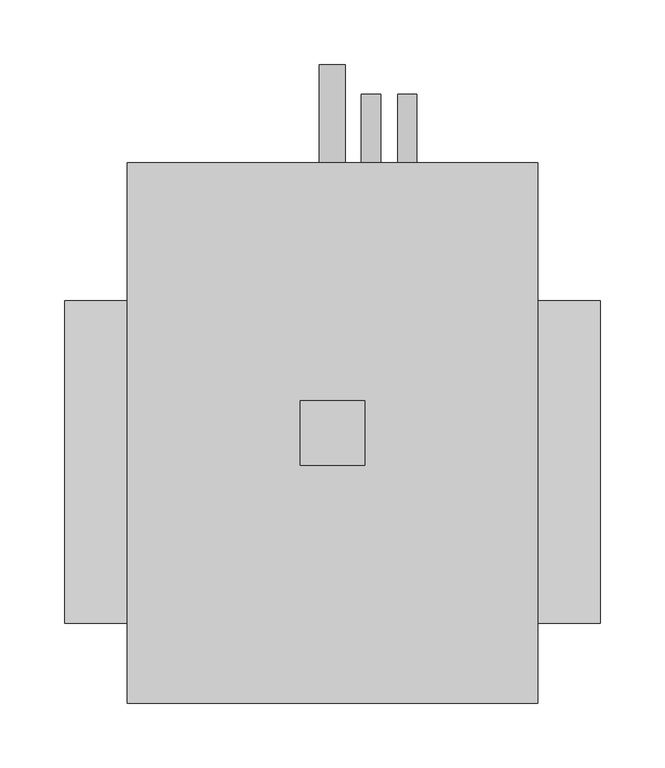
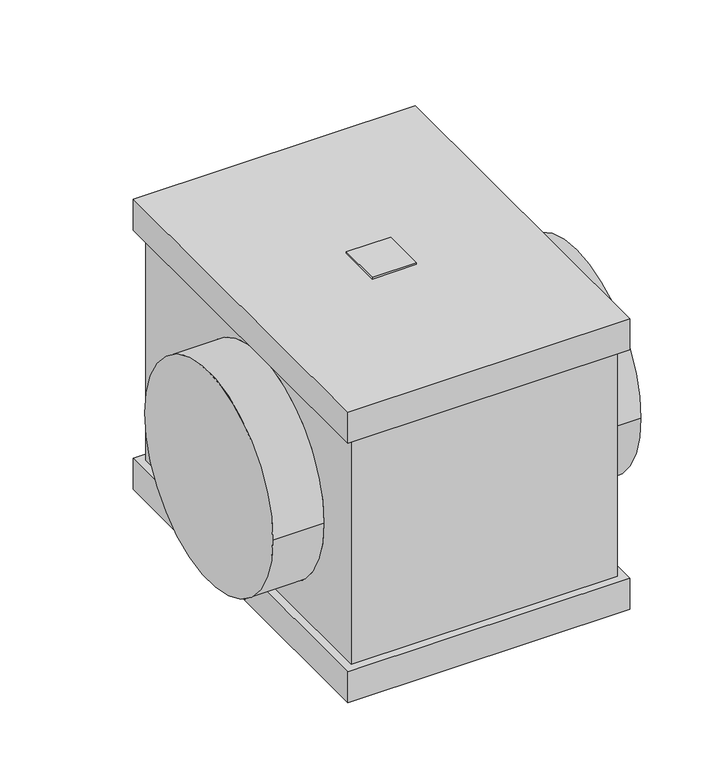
"""IFC4 building model written with IfcOpenShell, lengths in millimetres: proxy geometry, KORF_Охладитель_Водяной_Круглый_Правый_KWLO : KWLO 250/2."""

import ifcopenshell
import ifcopenshell.guid

model = None  # the IFC model being written
_history = None  # IfcOwnerHistory: only IFC2X3 demands one
_inside = {}  # id of a spatial element -> (the spatial element, [elements in it])
_under = {}  # id of a project, library or spatial element -> (it, [spatial elements below it])
_declared = {}  # id of a project -> (the project, [libraries it declares])
_typed = {}  # id of a type object -> (the type object, [elements of that type])
_made_of = {}  # id of a material, layer set ... -> (it, [elements and type objects made of it])


def new_model(schema):
    """Start an empty IFC model of exactly this schema.

    Asked for "IFC4X3", IfcOpenShell would pick the latest addendum, in which some entities
    have other attributes; the version numbers below select the first issue.
    IFC2X3 requires an IfcOwnerHistory on every rooted entity: one is made here for all.
    """
    global model, _history
    if schema == "IFC4X3":
        model = ifcopenshell.file(schema_version=(4, 3, 0, 0))
    else:
        model = ifcopenshell.file(schema=schema)
    _inside.clear()
    _under.clear()
    _declared.clear()
    _typed.clear()
    _made_of.clear()
    _history = None
    if model.schema == "IFC2X3":
        org = make("IfcOrganization", Name="unknown")
        user = make(
            "IfcPersonAndOrganization",
            ThePerson=make("IfcPerson", FamilyName="unknown"),
            TheOrganization=org,
        )
        app = make(
            "IfcApplication",
            ApplicationDeveloper=org,
            Version="unknown",
            ApplicationFullName="unknown",
            ApplicationIdentifier="unknown",
        )
        _history = make(
            "IfcOwnerHistory",
            OwningUser=user,
            OwningApplication=app,
            ChangeAction="ADDED",
            CreationDate=0,
        )
    return model


def make(cls, **values):
    """One entity of the class cls with the attributes given. An attribute that is None is left unset."""
    return model.create_entity(
        cls, **{name: value for name, value in values.items() if value is not None}
    )


def rooted(cls, **values):
    """An entity with a GlobalId (a new one), such as an element, a storey or a relation."""
    return make(cls, GlobalId=ifcopenshell.guid.new(), OwnerHistory=_history, **values)


def si_unit(unit_type, name, prefix=None):
    """IfcSIUnit, for example si_unit("LENGTHUNIT", "METRE", prefix="MILLI")."""
    return make("IfcSIUnit", UnitType=unit_type, Prefix=prefix, Name=name)


def assignment(units):
    """IfcUnitAssignment: the units of a project."""
    return None if units is None else make("IfcUnitAssignment", Units=units)


def point(xyz):
    """IfcCartesianPoint."""
    return None if xyz is None else make("IfcCartesianPoint", Coordinates=xyz)


def direction(xyz):
    """IfcDirection."""
    return None if xyz is None else make("IfcDirection", DirectionRatios=xyz)


def frame(location, z_axis=None, x_axis=None):
    """IfcAxis2Placement3D, a coordinate frame: its origin and axes. An axis left out is left unset."""
    return make(
        "IfcAxis2Placement3D",
        Location=point(location),
        Axis=direction(z_axis),
        RefDirection=direction(x_axis),
    )


def frame_2d(location, x_axis=None):
    """IfcAxis2Placement2D, a coordinate frame in the plane: its origin and x axis."""
    return make(
        "IfcAxis2Placement2D", Location=point(location), RefDirection=direction(x_axis)
    )


def origin():
    """The frame at (0, 0, 0) with its axes left unset."""
    return frame((0.0, 0.0, 0.0))


def place(relative_to, where):
    """IfcLocalPlacement: puts the frame where relative to a parent placement (None: the world)."""
    return make(
        "IfcLocalPlacement", PlacementRelTo=relative_to, RelativePlacement=where
    )


def context(
    kind, dimensions, precision=None, world=None, true_north=None, identifier=None
):
    """IfcGeometricRepresentationContext, for example the 3D "Model" context."""
    return make(
        "IfcGeometricRepresentationContext",
        ContextIdentifier=identifier,
        ContextType=kind,
        CoordinateSpaceDimension=dimensions,
        Precision=precision,
        WorldCoordinateSystem=world,
        TrueNorth=true_north,
    )


def project(units=None, contexts=None):
    """IfcProject with its units and contexts."""
    return rooted(
        "IfcProject",
        Name="project",
        RepresentationContexts=contexts,
        UnitsInContext=assignment(units),
    )


def spatial(cls, under=None, at=None, **own):
    """A site, building, storey or space (cls), placed at a placement, below another one or the project."""
    s = rooted(cls, ObjectPlacement=at, **own)
    if under is not None:
        _under.setdefault(under.id(), (under, []))[1].append(s)
    return s


def polyline(points):
    """IfcPolyline through the points."""
    return make("IfcPolyline", Points=[point(p) for p in points])


def circle_curve(where, radius):
    """IfcCircle in the frame where."""
    return make("IfcCircle", Position=where, Radius=radius)


def trimmed(basis, trim1, trim2, sense, master):
    """IfcTrimmedCurve: the piece of a basis curve between two trims."""
    return make(
        "IfcTrimmedCurve",
        BasisCurve=basis,
        Trim1=trim1,
        Trim2=trim2,
        SenseAgreement=sense,
        MasterRepresentation=master,
    )


def segment(curve, same_sense, transition):
    """IfcCompositeCurveSegment."""
    return make(
        "IfcCompositeCurveSegment",
        Transition=transition,
        SameSense=same_sense,
        ParentCurve=curve,
    )


def composite_curve(segments, self_intersect=None):
    """IfcCompositeCurve: segments joined end to end."""
    return make("IfcCompositeCurve", Segments=segments, SelfIntersect=self_intersect)


def outline(outer, holes=None, kind="AREA"):
    """IfcArbitraryClosedProfileDef: a profile drawn as a closed curve; with holes, ...WithVoids."""
    if holes is None:
        return make("IfcArbitraryClosedProfileDef", ProfileType=kind, OuterCurve=outer)
    return make(
        "IfcArbitraryProfileDefWithVoids",
        ProfileType=kind,
        OuterCurve=outer,
        InnerCurves=holes,
    )


def extrude(swept, where, along, depth):
    """IfcExtrudedAreaSolid: the profile swept, set in the frame where, extruded along a direction by depth."""
    return make(
        "IfcExtrudedAreaSolid",
        SweptArea=swept,
        Position=where,
        ExtrudedDirection=direction(along),
        Depth=depth,
    )


def shape(context_of_items, identifier, shape_type, items):
    """IfcShapeRepresentation: the items that make up one representation, for example the "Body"."""
    return make(
        "IfcShapeRepresentation",
        ContextOfItems=context_of_items,
        RepresentationIdentifier=identifier,
        RepresentationType=shape_type,
        Items=items,
    )


def source(mapping_origin, context_of_items, identifier, shape_type, items):
    """IfcRepresentationMap: a shape defined once, which mapped items show again and again."""
    return make(
        "IfcRepresentationMap",
        MappingOrigin=mapping_origin,
        MappedRepresentation=shape(context_of_items, identifier, shape_type, items),
    )


def transform(
    local_origin,
    x_axis=None,
    y_axis=None,
    z_axis=None,
    scale=None,
    scale2=None,
    scale3=None,
    uniform=True,
):
    """IfcCartesianTransformationOperator3D, or its non-uniform kind. x_axis, y_axis, z_axis: its Axis1, 2, 3."""
    if uniform:
        return make(
            "IfcCartesianTransformationOperator3D",
            Axis1=direction(x_axis),
            Axis2=direction(y_axis),
            LocalOrigin=point(local_origin),
            Scale=scale,
            Axis3=direction(z_axis),
        )
    return make(
        "IfcCartesianTransformationOperator3DnonUniform",
        Axis1=direction(x_axis),
        Axis2=direction(y_axis),
        LocalOrigin=point(local_origin),
        Scale=scale,
        Axis3=direction(z_axis),
        Scale2=scale2,
        Scale3=scale3,
    )


def mapped(mapping_source, mapping_target):
    """IfcMappedItem: shows the shape of a source again, moved by a transform."""
    return make(
        "IfcMappedItem", MappingSource=mapping_source, MappingTarget=mapping_target
    )


def made_of(thing, what):
    """Note that an element or type object is made of a material, layer set ...; save() writes the relation."""
    if what is not None:
        _made_of.setdefault(what.id(), (what, []))[1].append(thing)
    return thing


def element(
    cls,
    number,
    at=None,
    inside=None,
    cuts=None,
    type_object=None,
    material=None,
    context=None,
    identifier="Body",
    shape_type=None,
    held_by="IfcProductDefinitionShape",
    body=None,
    shapes=None,
    **own,
):
    """One element of the class cls, such as IfcWall. Its Tag is "e" and its number.

    at: its placement. inside: the storey or other place that contains it. cuts: it is an
    opening in that element (IfcRelVoidsElement). A single representation is given by context,
    identifier, shape_type and body (its items); several are given by shapes. held_by: the class
    of the entity that holds the representations. save() writes the other relations.
    """
    e = rooted(cls, Tag="e%d" % number, ObjectPlacement=at, **own)
    if body is not None:
        shapes = [shape(context, identifier, shape_type, body)]
    if shapes is not None:
        e.Representation = make(held_by, Representations=shapes)
    if inside is not None:
        _inside.setdefault(inside.id(), (inside, []))[1].append(e)
    if cuts is not None:
        rooted(
            "IfcRelVoidsElement", RelatingBuildingElement=cuts, RelatedOpeningElement=e
        )
    if type_object is not None:
        _typed.setdefault(type_object.id(), (type_object, []))[1].append(e)
    return made_of(e, material)


def aggregate(whole, parts):
    """IfcRelAggregates: a whole, such as a stair, and the parts it consists of."""
    return rooted("IfcRelAggregates", RelatingObject=whole, RelatedObjects=parts)


def save(model, path):
    """Write the relations noted so far, then the file.

    IfcRelAggregates (storeys below a building ...), IfcRelContainedInSpatialStructure (elements
    in a storey), IfcRelDefinesByType, IfcRelAssociatesMaterial and IfcRelDeclares: one each for
    every whole, place, type object, material and project.
    """
    for whole, parts in _under.values():
        aggregate(whole, parts)
    for where, things in _inside.values():
        rooted(
            "IfcRelContainedInSpatialStructure",
            RelatedElements=things,
            RelatingStructure=where,
        )
    for kind, things in _typed.values():
        rooted("IfcRelDefinesByType", RelatedObjects=things, RelatingType=kind)
    for what, things in _made_of.values():
        rooted("IfcRelAssociatesMaterial", RelatedObjects=things, RelatingMaterial=what)
    for by, libraries in _declared.values():
        rooted("IfcRelDeclares", RelatingContext=by, RelatedDefinitions=libraries)
    model.write(path)


def plane_surface(at):
    """IfcPlane: the flat surface through the origin of the frame at, square to its z axis."""
    return make("IfcPlane", Position=at)


def cylinder_surface(at, radius):
    """IfcCylindricalSurface: all points at the distance radius from the z axis of the frame at."""
    return make("IfcCylindricalSurface", Position=at, Radius=radius)


def advanced_brep(points, edges, surfaces, faces):
    """IfcAdvancedBrep: a solid bounded by faces that lie on surfaces and meet in shared edges.

    An edge is (start, end): straight between two places in points (the first is 0);
    or (start, end, curve); or (start, end, curve, False) where it runs against its curve.
    A face is (place in surfaces, loops), or (place, loops, False) where it looks against
    its surface's normal. A loop lists edges by number (the first is 1), with a minus sign
    where the edge is run from its end to its start. The first loop is the outer one.
    """
    corners = [point(p) for p in points]
    vertices = [make("IfcVertexPoint", VertexGeometry=c) for c in corners]
    made = []
    for start, end, *more in edges:
        made.append(
            make(
                "IfcEdgeCurve",
                EdgeStart=vertices[start],
                EdgeEnd=vertices[end],
                EdgeGeometry=more[0] if more else make("IfcPolyline", Points=[corners[start], corners[end]]),
                SameSense=more[1] if len(more) > 1 else True,
            )
        )
    hull = []
    for where, loops, *sense in faces:
        bounds = []
        for j, loop in enumerate(loops):
            ring = [make("IfcOrientedEdge", EdgeElement=made[abs(k) - 1], Orientation=k > 0) for k in loop]
            bounds.append(
                make(
                    "IfcFaceOuterBound" if j == 0 else "IfcFaceBound",
                    Bound=make("IfcEdgeLoop", EdgeList=ring),
                    Orientation=True,
                )
            )
        hull.append(make("IfcAdvancedFace", Bounds=bounds, FaceSurface=surfaces[where], SameSense=sense[0] if sense else True))
    return make("IfcAdvancedBrep", Outer=make("IfcClosedShell", CfsFaces=hull))


def mechanical_equipment_d7da3fb7(model_context):
    return source(origin(), model_context, "Body", "SolidModel", [
        extrude(outline(polyline([(232.5, 47.5), (232.5, -2.5), (182.5, -2.5), (182.5, 47.5), (232.5, 47.5)])), frame((0.0, 0.0, 173.0), z_axis=(0.0, 0.0, 1.0), x_axis=(1.0, 0.0, 0.0)), (0.0, 0.0, 1.0), 2.0),
        advanced_brep(
        [(415.0, -125.0, 0.0), (415.0, 125.0, 0.0), (0.0, -125.0, 0.0), (0.0, 125.0, 0.0), (357.5, -125.0, 0.0), (357.5, 125.0, 0.0), (57.5, 125.0, 0.0), (57.5, -125.0, 0.0), (357.5, -178.0, -136.0), (357.5, 223.0, -136.0), (357.5, 223.0, 136.0), (357.5, -178.0, 136.0), (57.5, 223.0, -136.0), (57.5, -178.0, -136.0), (57.5, -178.0, 136.0), (57.5, 223.0, 136.0), (366.5, 232.0, -173.0), (366.5, -187.0, -173.0), (48.5, -187.0, -173.0), (48.5, 232.0, -173.0), (366.5, -187.0, 173.0), (366.5, 232.0, 173.0), (48.5, 232.0, 173.0), (48.5, -187.0, 173.0), (366.5, 232.0, -136.0), (366.5, -187.0, -136.0), (48.5, -187.0, -136.0), (48.5, 232.0, -136.0), (366.5, 232.0, 136.0), (366.5, -187.0, 136.0), (48.5, -187.0, 136.0), (48.5, 232.0, 136.0)],
        [
            (0, 1, circle_curve(frame((415.0, 0.0, 0.0), z_axis=(1.0, 0.0, 0.0), x_axis=(0.0, 1.0, 0.0)), 125.0)),
            (1, 0, circle_curve(frame((415.0, 0.0, 0.0), z_axis=(1.0, 0.0, 0.0), x_axis=(0.0, 1.0, 0.0)), 125.0)),
            (2, 3, circle_curve(frame((0.0, 0.0, 0.0), z_axis=(-1.0, 0.0, 0.0), x_axis=(0.0, 1.0, 0.0)), 125.0)),
            (3, 2, circle_curve(frame((0.0, 0.0, 0.0), z_axis=(-1.0, 0.0, 0.0), x_axis=(0.0, 1.0, 0.0)), 125.0)),
            (0, 4),
            (4, 5, circle_curve(frame((357.5, 0.0, 0.0), z_axis=(1.0, 0.0, 0.0), x_axis=(0.0, 1.0, 0.0)), 125.0)),
            (5, 1),
            (3, 6),
            (6, 7, circle_curve(frame((57.5, 0.0, 0.0), z_axis=(-1.0, 0.0, 0.0), x_axis=(0.0, 1.0, 0.0)), 125.0)),
            (7, 2),
            (5, 4, circle_curve(frame((357.5, 0.0, 0.0), z_axis=(1.0, 0.0, 0.0), x_axis=(0.0, 1.0, 0.0)), 125.0)),
            (7, 6, circle_curve(frame((57.5, 0.0, 0.0), z_axis=(-1.0, 0.0, 0.0), x_axis=(0.0, 1.0, 0.0)), 125.0)),
            (8, 9),
            (9, 10),
            (10, 11),
            (11, 8),
            (12, 13),
            (13, 14),
            (14, 15),
            (15, 12),
            (13, 8),
            (11, 14),
            (16, 17),
            (17, 18),
            (18, 19),
            (19, 16),
            (9, 12),
            (15, 10),
            (20, 21),
            (21, 22),
            (22, 23),
            (23, 20),
            (16, 24),
            (24, 25),
            (25, 17),
            (25, 26),
            (26, 18),
            (26, 27),
            (27, 19),
            (24, 27),
            (28, 21),
            (20, 29),
            (29, 28),
            (23, 30),
            (30, 29),
            (22, 31),
            (31, 30),
            (28, 31),
        ],
        [
            plane_surface(frame((415.0, 125.0, 0.0), z_axis=(1.0, 0.0, 0.0), x_axis=(0.0, 0.0, 1.0))),
            plane_surface(frame((0.0, 125.0, 0.0), z_axis=(-1.0, 0.0, 0.0), x_axis=(0.0, 0.0, -1.0))),
            cylinder_surface(frame((0.0, 0.0, 0.0), z_axis=(1.0, 0.0, 0.0), x_axis=(0.0, 1.0, 0.0)), 125.0),
            plane_surface(frame((357.5, -178.0, 173.0), z_axis=(1.0, 0.0, 0.0), x_axis=(0.0, 0.0, -1.0))),
            plane_surface(frame((57.5, -178.0, 173.0), z_axis=(-1.0, 0.0, 0.0), x_axis=(0.0, 0.0, 1.0))),
            plane_surface(frame((357.5, -178.0, 173.0), z_axis=(0.0, -1.0, 0.0), x_axis=(-1.0, 0.0, 0.0))),
            plane_surface(frame((357.5, -178.0, -173.0), z_axis=(0.0, 0.0, -1.0), x_axis=(-1.0, 0.0, 0.0))),
            plane_surface(frame((357.5, 223.0, -173.0), z_axis=(0.0, 1.0, 0.0), x_axis=(-1.0, 0.0, 0.0))),
            plane_surface(frame((357.5, 223.0, 173.0), z_axis=(0.0, 0.0, 1.0), x_axis=(-1.0, 0.0, 0.0))),
            plane_surface(frame((366.5, 232.0, -136.0), z_axis=(1.0, 0.0, 0.0), x_axis=(0.0, -1.0, 0.0))),
            plane_surface(frame((366.5, -187.0, -136.0), z_axis=(0.0, -1.0, 0.0), x_axis=(-1.0, 0.0, 0.0))),
            plane_surface(frame((48.5, -187.0, -136.0), z_axis=(-1.0, 0.0, 0.0), x_axis=(0.0, 1.0, 0.0))),
            plane_surface(frame((57.5, 223.0, -136.0), z_axis=(0.0, 0.0, 1.0), x_axis=(1.0, 0.0, 0.0))),
            plane_surface(frame((48.5, 232.0, -136.0), z_axis=(0.0, 1.0, 0.0), x_axis=(1.0, 0.0, 0.0))),
            plane_surface(frame((366.5, 232.0, 173.0), z_axis=(1.0, 0.0, 0.0), x_axis=(0.0, -1.0, 0.0))),
            plane_surface(frame((366.5, -187.0, 173.0), z_axis=(0.0, -1.0, 0.0), x_axis=(-1.0, 0.0, 0.0))),
            plane_surface(frame((48.5, -187.0, 173.0), z_axis=(-1.0, 0.0, 0.0), x_axis=(0.0, 1.0, 0.0))),
            plane_surface(frame((48.5, 232.0, 173.0), z_axis=(0.0, 1.0, 0.0), x_axis=(1.0, 0.0, 0.0))),
            plane_surface(frame((48.5, 232.0, 136.0), z_axis=(0.0, 0.0, -1.0), x_axis=(1.0, 0.0, 0.0))),
        ],
        [
            (0, [[1, 2]]),
            (1, [[3, 4]]),
            (2, [[-1, 5, 6, 7]]),
            (2, [[-4, 8, 9, 10]]),
            (2, [[-2, -7, 11, -5]]),
            (2, [[-3, -10, 12, -8]]),
            (3, [[13, 14, 15, 16], [-6, -11]]),
            (4, [[17, 18, 19, 20], [-9, -12]]),
            (5, [[21, -16, 22, -18]]),
            (6, [[23, 24, 25, 26]]),
            (7, [[27, -20, 28, -14]]),
            (8, [[29, 30, 31, 32]]),
            (9, [[33, 34, 35, -23]]),
            (10, [[-35, 36, 37, -24]]),
            (11, [[-37, 38, 39, -25]]),
            (12, [[-34, 40, -38, -36], [-13, -21, -17, -27]]),
            (13, [[-33, -26, -39, -40]]),
            (14, [[41, -29, 42, 43]]),
            (15, [[-42, -32, 44, 45]]),
            (16, [[-44, -31, 46, 47]]),
            (17, [[-41, 48, -46, -30]]),
            (18, [[-43, -45, -47, -48], [-15, -28, -19, -22]]),
        ],
    ),
        extrude(outline(composite_curve([segment(trimmed(circle_curve(frame_2d((-119.0, 237.5)), 7.5), [point((-119.0, 230.0))], [point((-119.0, 245.0))], False, "CARTESIAN"), True, "CONTINUOUS"), segment(trimmed(circle_curve(frame_2d((-119.0, 237.5)), 7.5), [point((-119.0, 245.0))], [point((-119.0, 230.0))], False, "CARTESIAN"), True, "CONTINUOUS")], self_intersect=False)), frame((0.0, 223.0, 0.0), z_axis=(0.0, 1.0, 0.0), x_axis=(0.0, 0.0, 1.0)), (0.0, 0.0, 1.0), 62.0),
        extrude(outline(composite_curve([segment(trimmed(circle_curve(frame_2d((119.0, 265.5)), 7.5), [point((119.0, 258.0))], [point((119.0, 273.0))], False, "CARTESIAN"), True, "CONTINUOUS"), segment(trimmed(circle_curve(frame_2d((119.0, 265.5)), 7.5), [point((119.0, 273.0))], [point((119.0, 258.0))], False, "CARTESIAN"), True, "CONTINUOUS")], self_intersect=False)), frame((0.0, 223.0, 0.0), z_axis=(0.0, 1.0, 0.0), x_axis=(0.0, 0.0, 1.0)), (0.0, 0.0, 1.0), 62.0),
        extrude(outline(composite_curve([segment(trimmed(circle_curve(frame_2d((-154.0, 207.5)), 10.0), [point((-154.0, 197.5))], [point((-154.0, 217.5))], False, "CARTESIAN"), True, "CONTINUOUS"), segment(trimmed(circle_curve(frame_2d((-154.0, 207.5)), 10.0), [point((-154.0, 217.5))], [point((-154.0, 197.5))], False, "CARTESIAN"), True, "CONTINUOUS")], self_intersect=False)), frame((0.0, 232.0, 0.0), z_axis=(0.0, 1.0, 0.0), x_axis=(0.0, 0.0, 1.0)), (0.0, 0.0, 1.0), 76.0),
    ])


if __name__ == "__main__":
    model = new_model("IFC4")
    model_context = context("Model", 3, world=origin())
    ifc_project = project(units=[si_unit("LENGTHUNIT", "METRE", prefix="MILLI")], contexts=[model_context])
    site = spatial("IfcSite", under=ifc_project)
    building = spatial("IfcBuilding", under=site)
    placement = place(None, origin())
    mechanical_equipment_shape = mechanical_equipment_d7da3fb7(model_context)
    element("IfcBuildingElementProxy", 1, Name="KORF_Охладитель_Водяной_Круглый_Правый_KWLO : KWLO 250/2", ObjectType="KORF_Охладитель_Водяной_Круглый_Правый_KWLO : KWLO 250/2", at=placement, inside=building, context=model_context, shape_type="MappedRepresentation", body=[
        mapped(mechanical_equipment_shape, transform((0.0, 0.0, 0.0), x_axis=(1.0, 0.0, 0.0), y_axis=(0.0, 1.0, 0.0), z_axis=(0.0, 0.0, 1.0))),
    ])
    save(model, "model.ifc")
